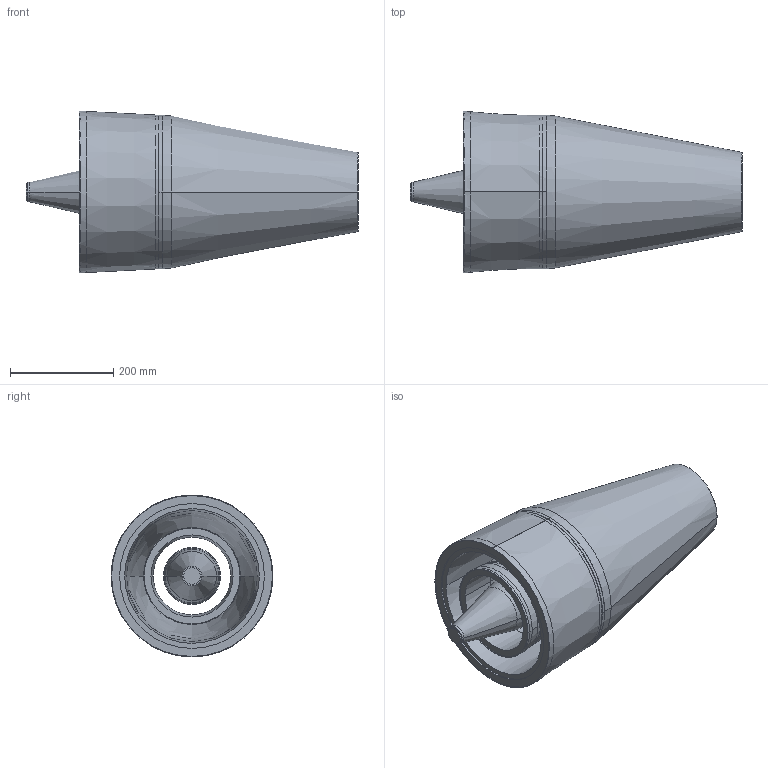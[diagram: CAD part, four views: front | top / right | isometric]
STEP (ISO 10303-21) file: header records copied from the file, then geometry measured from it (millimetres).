
FILE_DESCRIPTION (( 'STEP AP214' ), '1' );
FILE_NAME ('122Am0pIntV1.STEP', '2020-09-16T14:24:30', ( '' ), ( '' ), 'SwSTEP 2.0', 'SolidWorks 2019', '' );
FILE_SCHEMA (( 'AUTOMOTIVE_DESIGN' ));
Length unit declared in the file: inch
Products named in the file (1): 122Am0pIntV1
Bounding box: 644.01 x 314 x 314 mm (x, y, z)
Volume: 6327644.6 mm3; surface area: 1514289.4 mm2
Topology: 6 solids, 6 shells, 99 faces, 194 edges, 117 vertices
Faces by surface type: cylinder 32, cone 22, plane 21, bspline 14, torus 8, sphere 2
Entity records: 4164 total; most frequent: CARTESIAN_POINT 703, DIRECTION 478, ORIENTED_EDGE 388, AXIS2_PLACEMENT_3D 212, EDGE_CURVE 194, CIRCLE 126, EDGE_LOOP 117, VERTEX_POINT 117
